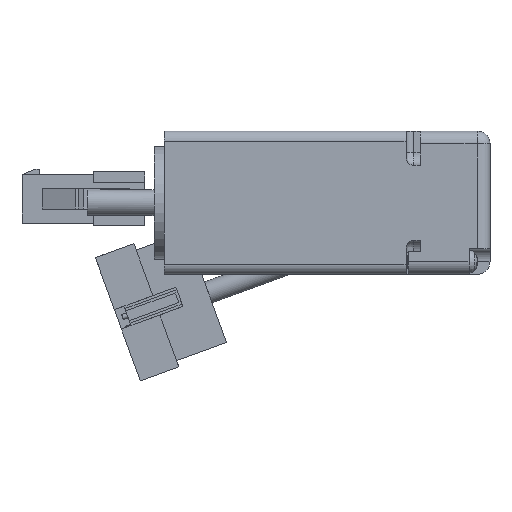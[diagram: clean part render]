
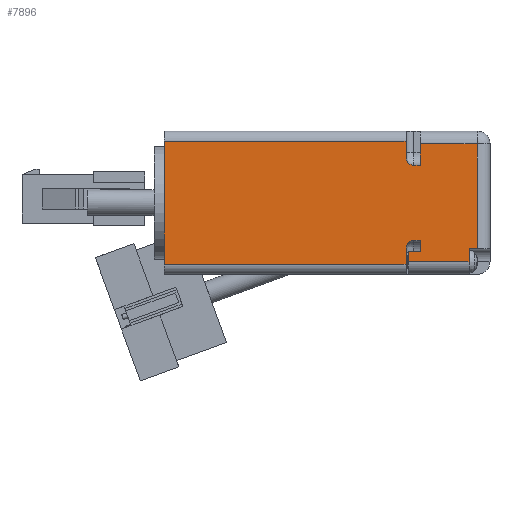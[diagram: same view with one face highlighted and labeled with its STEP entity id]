
A CAD part, front view. The second image highlights one B-rep face of the part: STEP entity #7896.
In plain terms, the highlighted planar face has unit normal (0, -1, 0).
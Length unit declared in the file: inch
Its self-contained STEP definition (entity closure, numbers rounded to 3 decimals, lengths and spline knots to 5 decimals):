
#403=LINE('',#12474,#1129);
#409=LINE('',#12490,#1135);
#412=LINE('',#12505,#1138);
#604=LINE('',#13049,#1330);
#618=LINE('',#13167,#1344);
#631=LINE('',#13193,#1357);
#633=LINE('',#13197,#1359);
#656=LINE('',#13247,#1382);
#662=LINE('',#13259,#1388);
#672=LINE('',#13347,#1398);
#675=LINE('',#13360,#1401);
#690=LINE('',#13404,#1416);
#696=LINE('',#13419,#1422);
#697=LINE('',#13422,#1423);
#698=LINE('',#13424,#1424);
#699=LINE('',#13427,#1425);
#1129=VECTOR('',#9889,0.06299);
#1135=VECTOR('',#9905,0.09843);
#1138=VECTOR('',#9926,0.80709);
#1330=VECTOR('',#10470,0.16339);
#1344=VECTOR('',#10602,0.08465);
#1357=VECTOR('',#10631,0.43701);
#1359=VECTOR('',#10635,0.4685);
#1382=VECTOR('',#10704,0.07874);
#1388=VECTOR('',#10718,0.09449);
#1398=VECTOR('',#10828,1.85827);
#1401=VECTOR('',#10839,1.85827);
#1416=VECTOR('',#10880,0.94488);
#1422=VECTOR('',#10894,0.05118);
#1423=VECTOR('',#10897,0.12402);
#1424=VECTOR('',#10898,0.12402);
#1425=VECTOR('',#10901,0.05118);
#2047=FACE_OUTER_BOUND('',#2802,.T.);
#2802=EDGE_LOOP('',(#6960,#6961,#6962,#6963,#6964,#6965,#6966,#6967,#6968,
#6969,#6970,#6971,#6972,#6973,#6974,#6975,#6976,#6977));
#3161=CIRCLE('',#8680,0.05906);
#3162=CIRCLE('',#8681,0.05906);
#3585=VERTEX_POINT('',#12471);
#3586=VERTEX_POINT('',#12473);
#3591=VERTEX_POINT('',#12489);
#3594=VERTEX_POINT('',#12501);
#3768=VERTEX_POINT('',#13045);
#3770=VERTEX_POINT('',#13048);
#3814=VERTEX_POINT('',#13164);
#3815=VERTEX_POINT('',#13166);
#3821=VERTEX_POINT('',#13196);
#3825=VERTEX_POINT('',#13246);
#3854=VERTEX_POINT('',#13345);
#3855=VERTEX_POINT('',#13346);
#3860=VERTEX_POINT('',#13357);
#3861=VERTEX_POINT('',#13359);
#3882=VERTEX_POINT('',#13418);
#3883=VERTEX_POINT('',#13420);
#3884=VERTEX_POINT('',#13423);
#3885=VERTEX_POINT('',#13425);
#4478=EDGE_CURVE('',#3586,#3585,#403,.T.);
#4486=EDGE_CURVE('',#3586,#3591,#409,.T.);
#4494=EDGE_CURVE('',#3585,#3594,#412,.T.);
#4762=EDGE_CURVE('',#3770,#3768,#604,.T.);
#4813=EDGE_CURVE('',#3815,#3814,#618,.T.);
#4828=EDGE_CURVE('',#3594,#3770,#631,.T.);
#4830=EDGE_CURVE('',#3591,#3821,#633,.T.);
#4854=EDGE_CURVE('',#3821,#3825,#656,.T.);
#4861=EDGE_CURVE('',#3825,#3814,#662,.T.);
#4893=EDGE_CURVE('',#3854,#3855,#672,.T.);
#4899=EDGE_CURVE('',#3861,#3860,#675,.T.);
#4921=EDGE_CURVE('',#3861,#3855,#690,.T.);
#4929=EDGE_CURVE('',#3882,#3768,#696,.T.);
#4930=EDGE_CURVE('',#3882,#3883,#3161,.T.);
#4931=EDGE_CURVE('',#3854,#3883,#697,.T.);
#4932=EDGE_CURVE('',#3884,#3860,#698,.T.);
#4933=EDGE_CURVE('',#3884,#3885,#3162,.T.);
#4934=EDGE_CURVE('',#3885,#3815,#699,.T.);
#6960=ORIENTED_EDGE('',*,*,#4929,.F.);
#6961=ORIENTED_EDGE('',*,*,#4930,.T.);
#6962=ORIENTED_EDGE('',*,*,#4931,.F.);
#6963=ORIENTED_EDGE('',*,*,#4893,.T.);
#6964=ORIENTED_EDGE('',*,*,#4921,.F.);
#6965=ORIENTED_EDGE('',*,*,#4899,.T.);
#6966=ORIENTED_EDGE('',*,*,#4932,.F.);
#6967=ORIENTED_EDGE('',*,*,#4933,.T.);
#6968=ORIENTED_EDGE('',*,*,#4934,.T.);
#6969=ORIENTED_EDGE('',*,*,#4813,.T.);
#6970=ORIENTED_EDGE('',*,*,#4861,.F.);
#6971=ORIENTED_EDGE('',*,*,#4854,.F.);
#6972=ORIENTED_EDGE('',*,*,#4830,.F.);
#6973=ORIENTED_EDGE('',*,*,#4486,.F.);
#6974=ORIENTED_EDGE('',*,*,#4478,.T.);
#6975=ORIENTED_EDGE('',*,*,#4494,.T.);
#6976=ORIENTED_EDGE('',*,*,#4828,.T.);
#6977=ORIENTED_EDGE('',*,*,#4762,.T.);
#7444=PLANE('',#8679);
#7896=ADVANCED_FACE('',(#2047),#7444,.F.);
#8679=AXIS2_PLACEMENT_3D('',#13417,#10892,#10893);
#8680=AXIS2_PLACEMENT_3D('',#13421,#10895,#10896);
#8681=AXIS2_PLACEMENT_3D('',#13426,#10899,#10900);
#9889=DIRECTION('',(1.,0.,0.));
#9905=DIRECTION('',(0.,0.,-1.));
#9926=DIRECTION('',(0.,0.,1.));
#10470=DIRECTION('',(0.,0.,-1.));
#10602=DIRECTION('',(0.,0.,-1.));
#10631=DIRECTION('',(-1.,0.,0.));
#10635=DIRECTION('',(-1.,0.,0.));
#10704=DIRECTION('',(0.,0.,1.));
#10718=DIRECTION('',(1.,0.,0.));
#10828=DIRECTION('',(-1.,0.,0.));
#10839=DIRECTION('',(1.,0.,0.));
#10880=DIRECTION('',(0.,0.,1.));
#10892=DIRECTION('center_axis',(0.,1.,0.));
#10893=DIRECTION('ref_axis',(-1.,0.,0.));
#10894=DIRECTION('',(1.,0.,0.));
#10895=DIRECTION('center_axis',(0.,1.,0.));
#10896=DIRECTION('ref_axis',(-1.,0.,0.));
#10897=DIRECTION('',(0.,0.,-1.));
#10898=DIRECTION('',(0.,0.,-1.));
#10899=DIRECTION('center_axis',(0.,1.,0.));
#10900=DIRECTION('ref_axis',(-1.,0.,0.));
#10901=DIRECTION('',(1.,0.,0.));
#12471=CARTESIAN_POINT('',(0.43701,-0.60117,-0.46625));
#12473=CARTESIAN_POINT('',(0.37402,-0.60117,-0.46625));
#12474=CARTESIAN_POINT('',(0.37402,-0.60117,-0.46625));
#12489=CARTESIAN_POINT('',(0.37402,-0.60117,-0.56468));
#12490=CARTESIAN_POINT('',(0.37402,-0.60117,-0.46625));
#12501=CARTESIAN_POINT('',(0.43701,-0.60117,0.34084));
#12505=CARTESIAN_POINT('',(0.43701,-0.60117,0.34084));
#13045=CARTESIAN_POINT('',(0.,-0.60117,0.17745));
#13048=CARTESIAN_POINT('',(0.,-0.60117,0.34084));
#13049=CARTESIAN_POINT('',(0.,-0.60117,0.75676));
#13164=CARTESIAN_POINT('',(0.,-0.60117,-0.48594));
#13166=CARTESIAN_POINT('',(0.,-0.60117,-0.40129));
#13167=CARTESIAN_POINT('',(0.,-0.60117,0.75676));
#13193=CARTESIAN_POINT('',(0.53543,-0.60117,0.34084));
#13196=CARTESIAN_POINT('',(-0.09449,-0.60117,-0.56468));
#13197=CARTESIAN_POINT('',(0.53543,-0.60117,-0.56468));
#13246=CARTESIAN_POINT('',(-0.09449,-0.60117,-0.48594));
#13247=CARTESIAN_POINT('',(-0.09449,-0.60117,-0.56468));
#13259=CARTESIAN_POINT('',(-0.09449,-0.60117,-0.48594));
#13345=CARTESIAN_POINT('',(-0.11024,-0.60117,0.36052));
#13346=CARTESIAN_POINT('',(-1.9685,-0.60117,0.36052));
#13347=CARTESIAN_POINT('',(-1.9685,-0.60117,0.36052));
#13357=CARTESIAN_POINT('',(-0.11024,-0.60117,-0.58436));
#13359=CARTESIAN_POINT('',(-1.9685,-0.60117,-0.58436));
#13360=CARTESIAN_POINT('',(-1.9685,-0.60117,-0.58436));
#13404=CARTESIAN_POINT('',(-1.9685,-0.60117,-0.6631));
#13417=CARTESIAN_POINT('Origin',(-1.9685,-0.60117,-0.6631));
#13418=CARTESIAN_POINT('',(-0.05118,-0.60117,0.17745));
#13419=CARTESIAN_POINT('',(-0.11024,-0.60117,0.17745));
#13420=CARTESIAN_POINT('',(-0.11024,-0.60117,0.23651));
#13421=CARTESIAN_POINT('Origin',(-0.05118,-0.60117,
0.23651));
#13422=CARTESIAN_POINT('',(-0.11024,-0.60117,0.36052));
#13423=CARTESIAN_POINT('',(-0.11024,-0.60117,-0.46034));
#13424=CARTESIAN_POINT('',(-0.11024,-0.60117,-0.58436));
#13425=CARTESIAN_POINT('',(-0.05118,-0.60117,-0.40129));
#13426=CARTESIAN_POINT('Origin',(-0.05118,-0.60117,
-0.46034));
#13427=CARTESIAN_POINT('',(-0.11024,-0.60117,-0.40129));
